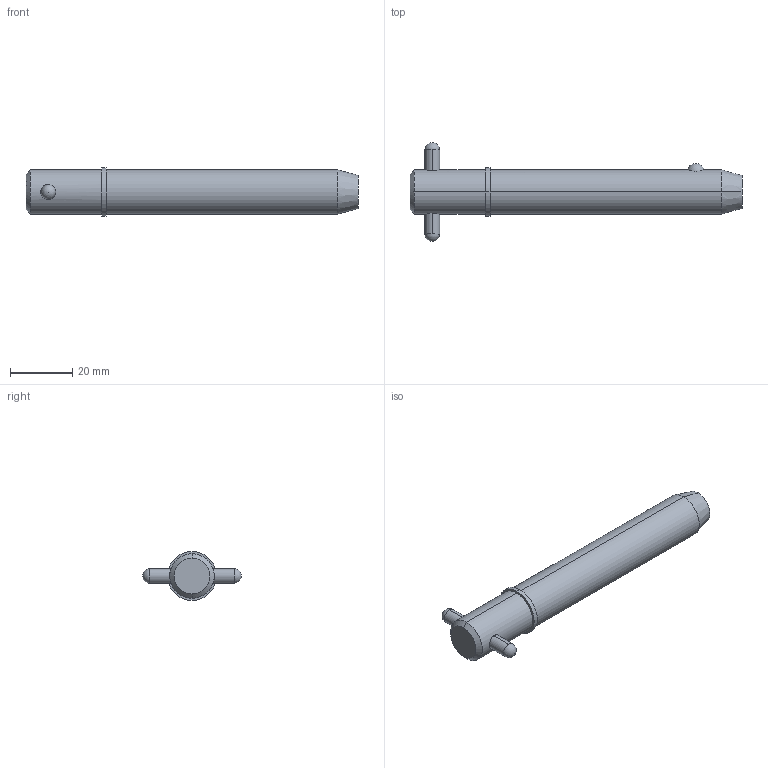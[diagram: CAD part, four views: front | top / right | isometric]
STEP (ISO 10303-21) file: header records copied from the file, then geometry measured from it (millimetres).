
FILE_DESCRIPTION (( 'STEP AP203' ), '1' );
FILE_NAME ('33018.W5625.step', '2024-11-19T17:16:41', ( '' ), ( '' ), 'SwSTEP 2.0', 'SolidWorks 2019', '' );
FILE_SCHEMA (( 'CONFIG_CONTROL_DESIGN' ));
Length unit declared in the file: millimetre
Products named in the file (3): Part1_33018.W5625; Part2_33018.W5625; 33018.W5625
Assembly tree (2 placements, depth 2):
  33018.W5625
    Part1_33018.W5625
    Part2_33018.W5625
Bounding box: 106.65 x 31.75 x 15.72 mm (x, y, z)
Volume: 17180.4 mm3; surface area: 5706.2 mm2
Topology: 2 solids, 2 shells, 22 faces, 47 edges, 30 vertices
Faces by surface type: cylinder 10, sphere 4, cone 4, plane 4
Entity records: 1033 total; most frequent: CARTESIAN_POINT 276, DIRECTION 110, ORIENTED_EDGE 82, AXIS2_PLACEMENT_3D 48, EDGE_CURVE 41, EDGE_LOOP 27, PERSON_AND_ORGANIZATION 26, VERTEX_POINT 26
